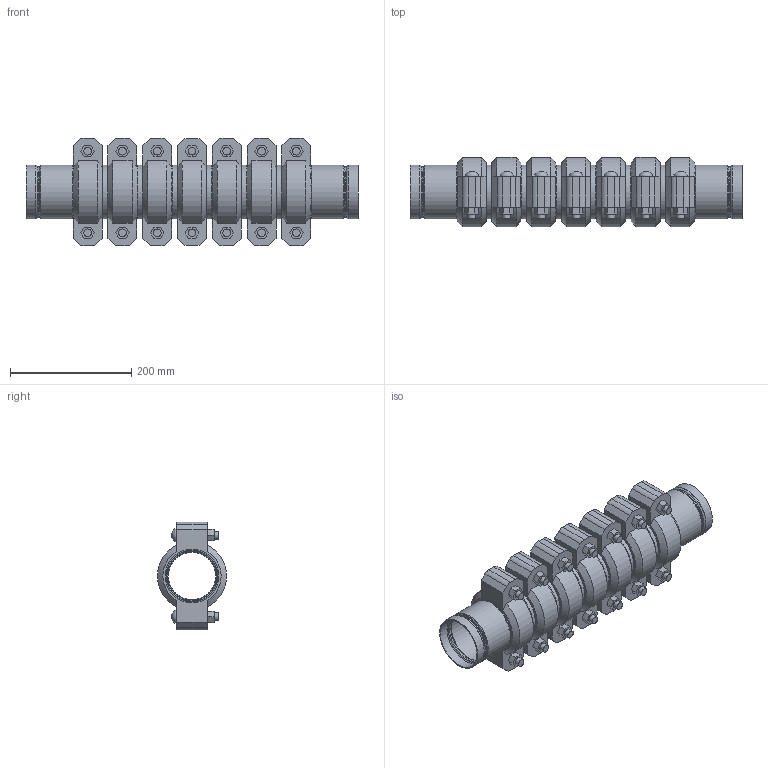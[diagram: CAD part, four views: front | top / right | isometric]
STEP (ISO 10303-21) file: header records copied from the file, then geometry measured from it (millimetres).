
FILE_DESCRIPTION(/* description */ ('VIC STRENGTHIN 100 EXPANSION JOINT 7 COUPLINGS COMPRESSED STYLE E155 (ST1)','CAx-IF Rec.Pracs.---Representation and Presentation of Product Manufacturing Information (PMI)---4.0---2014-10-13'),/* implementation_level */ '2;1');
FILE_NAME(/* name */ 'C:\Users\Vjadhav\AppData\Roaming\Autodesk\ApplicationPlugins\Victaulic.Temp\A926\Victaulic_SS-StrengThin 100_Expansion Joint_Compressed_7 Couplings_Style E155 (ST1)_3 (80).stp',/* time_stamp */ '2021-07-23T12:34:58+05:00',/* author */ ('kkamble'),/* organization */ ('Victaulic'),/* preprocessor_version */ 'ST-DEVELOPER v17.2',/* originating_system */ 'Autodesk Inventor 2019',/* authorisation */ '');
FILE_SCHEMA (('AP242_MANAGED_MODEL_BASED_3D_ENGINEERING_MIM_LF { 1 0 10303 442 1 1 4 }'));
Length unit declared in the file: inch
Products named in the file (4): E155-03.0; E494G-03.0; Nipple-03.0; 075-03.0
Assembly tree (15 placements, depth 2):
  E155-03.0
    E494G-03.0  x2
    Nipple-03.0  x6
    075-03.0  x7
Bounding box: 547.62 x 113.88 x 177.8 mm (x, y, z)
Volume: 2855886.5 mm3; surface area: 741879.2 mm2
Topology: 15 solids, 29 shells, 511 faces, 1291 edges, 912 vertices
Faces by surface type: plane 286, cylinder 147, torus 32, cone 32, bspline 14
Full cylindrical faces by diameter (mm): 12.7 x28, 14.605 x14, 77.927 x6, 79.985 x2, 81.737 x2, 83.185 x2, 84.938 x14, 85.7 x6, 88.9 x31
Entity records: 3679 total; most frequent: DIRECTION 655, CARTESIAN_POINT 647, ORIENTED_EDGE 536, AXIS2_PLACEMENT_3D 279, EDGE_CURVE 268, VERTEX_POINT 193, CIRCLE 163, EDGE_LOOP 123
